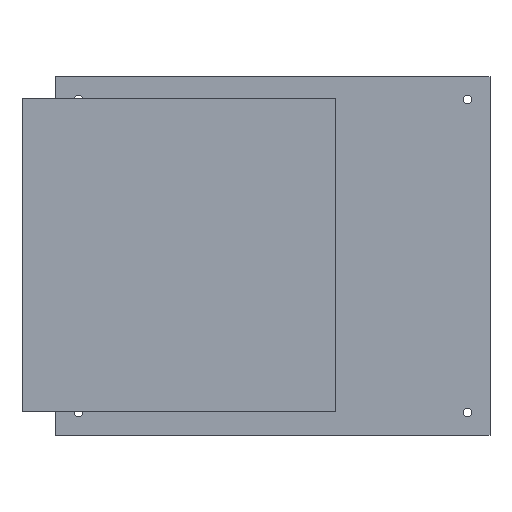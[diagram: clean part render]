
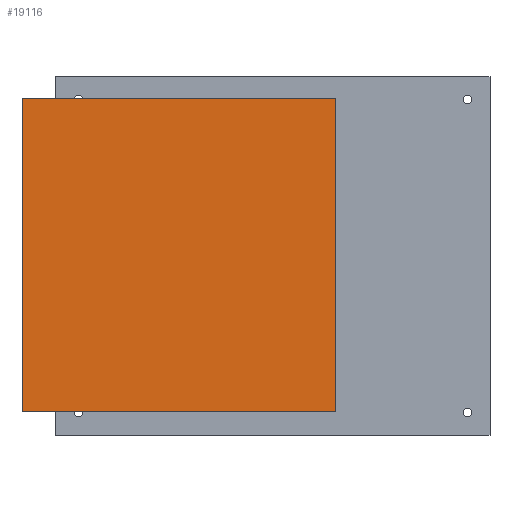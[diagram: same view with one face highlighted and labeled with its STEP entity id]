
A CAD part, top view. The second image highlights one B-rep face of the part: STEP entity #19116.
In plain terms, the highlighted planar face has unit normal (0, 0, 1).
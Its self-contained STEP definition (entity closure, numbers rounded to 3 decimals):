
#18927 = VERTEX_POINT('',#18928);
#18928 = CARTESIAN_POINT('',(-133.,-83.,402.7));
#18935 = PLANE('',#18936);
#18936 = AXIS2_PLACEMENT_3D('',#18937,#18938,#18939);
#18937 = CARTESIAN_POINT('',(-133.,-83.,397.7));
#18938 = DIRECTION('',(1.,0.,0.));
#18939 = DIRECTION('',(0.,0.,1.));
#18947 = PLANE('',#18948);
#18948 = AXIS2_PLACEMENT_3D('',#18949,#18950,#18951);
#18949 = CARTESIAN_POINT('',(-133.,-83.,397.7));
#18950 = DIRECTION('',(0.,1.,0.));
#18951 = DIRECTION('',(0.,-0.,1.));
#18988 = VERTEX_POINT('',#18989);
#18989 = CARTESIAN_POINT('',(-133.,83.,402.7));
#19003 = PLANE('',#19004);
#19004 = AXIS2_PLACEMENT_3D('',#19005,#19006,#19007);
#19005 = CARTESIAN_POINT('',(-133.,83.,397.7));
#19006 = DIRECTION('',(0.,1.,0.));
#19007 = DIRECTION('',(0.,-0.,1.));
#19015 = EDGE_CURVE('',#18927,#18988,#19016,.T.);
#19016 = SURFACE_CURVE('',#19017,(#19021,#19028),.PCURVE_S1.);
#19017 = LINE('',#19018,#19019);
#19018 = CARTESIAN_POINT('',(-133.,-83.,402.7));
#19019 = VECTOR('',#19020,1.);
#19020 = DIRECTION('',(0.,1.,0.));
#19021 = PCURVE('',#18935,#19022);
#19022 = DEFINITIONAL_REPRESENTATION('',(#19023),#19027);
#19023 = LINE('',#19024,#19025);
#19024 = CARTESIAN_POINT('',(5.,0.));
#19025 = VECTOR('',#19026,1.);
#19026 = DIRECTION('',(0.,-1.));
#19027 = ( GEOMETRIC_REPRESENTATION_CONTEXT(2) 
PARAMETRIC_REPRESENTATION_CONTEXT() REPRESENTATION_CONTEXT('2D SPACE',''
  ) );
#19028 = PCURVE('',#19029,#19034);
#19029 = PLANE('',#19030);
#19030 = AXIS2_PLACEMENT_3D('',#19031,#19032,#19033);
#19031 = CARTESIAN_POINT('',(-133.,-83.,402.7));
#19032 = DIRECTION('',(0.,0.,1.));
#19033 = DIRECTION('',(1.,0.,-0.));
#19034 = DEFINITIONAL_REPRESENTATION('',(#19035),#19039);
#19035 = LINE('',#19036,#19037);
#19036 = CARTESIAN_POINT('',(0.,0.));
#19037 = VECTOR('',#19038,1.);
#19038 = DIRECTION('',(0.,1.));
#19039 = ( GEOMETRIC_REPRESENTATION_CONTEXT(2) 
PARAMETRIC_REPRESENTATION_CONTEXT() REPRESENTATION_CONTEXT('2D SPACE',''
  ) );
#19068 = EDGE_CURVE('',#18927,#19069,#19071,.T.);
#19069 = VERTEX_POINT('',#19070);
#19070 = CARTESIAN_POINT('',(33.,-83.,402.7));
#19071 = SURFACE_CURVE('',#19072,(#19076,#19083),.PCURVE_S1.);
#19072 = LINE('',#19073,#19074);
#19073 = CARTESIAN_POINT('',(-133.,-83.,402.7));
#19074 = VECTOR('',#19075,1.);
#19075 = DIRECTION('',(1.,0.,0.));
#19076 = PCURVE('',#18947,#19077);
#19077 = DEFINITIONAL_REPRESENTATION('',(#19078),#19082);
#19078 = LINE('',#19079,#19080);
#19079 = CARTESIAN_POINT('',(5.,0.));
#19080 = VECTOR('',#19081,1.);
#19081 = DIRECTION('',(0.,1.));
#19082 = ( GEOMETRIC_REPRESENTATION_CONTEXT(2) 
PARAMETRIC_REPRESENTATION_CONTEXT() REPRESENTATION_CONTEXT('2D SPACE',''
  ) );
#19083 = PCURVE('',#19029,#19084);
#19084 = DEFINITIONAL_REPRESENTATION('',(#19085),#19089);
#19085 = LINE('',#19086,#19087);
#19086 = CARTESIAN_POINT('',(0.,0.));
#19087 = VECTOR('',#19088,1.);
#19088 = DIRECTION('',(1.,0.));
#19089 = ( GEOMETRIC_REPRESENTATION_CONTEXT(2) 
PARAMETRIC_REPRESENTATION_CONTEXT() REPRESENTATION_CONTEXT('2D SPACE',''
  ) );
#19105 = PLANE('',#19106);
#19106 = AXIS2_PLACEMENT_3D('',#19107,#19108,#19109);
#19107 = CARTESIAN_POINT('',(33.,-83.,397.7));
#19108 = DIRECTION('',(1.,0.,0.));
#19109 = DIRECTION('',(0.,0.,1.));
#19116 = ADVANCED_FACE('',(#19117),#19029,.T.);
#19117 = FACE_BOUND('',#19118,.T.);
#19118 = EDGE_LOOP('',(#19119,#19120,#19121,#19144));
#19119 = ORIENTED_EDGE('',*,*,#19015,.F.);
#19120 = ORIENTED_EDGE('',*,*,#19068,.T.);
#19121 = ORIENTED_EDGE('',*,*,#19122,.T.);
#19122 = EDGE_CURVE('',#19069,#19123,#19125,.T.);
#19123 = VERTEX_POINT('',#19124);
#19124 = CARTESIAN_POINT('',(33.,83.,402.7));
#19125 = SURFACE_CURVE('',#19126,(#19130,#19137),.PCURVE_S1.);
#19126 = LINE('',#19127,#19128);
#19127 = CARTESIAN_POINT('',(33.,-83.,402.7));
#19128 = VECTOR('',#19129,1.);
#19129 = DIRECTION('',(0.,1.,0.));
#19130 = PCURVE('',#19029,#19131);
#19131 = DEFINITIONAL_REPRESENTATION('',(#19132),#19136);
#19132 = LINE('',#19133,#19134);
#19133 = CARTESIAN_POINT('',(166.,0.));
#19134 = VECTOR('',#19135,1.);
#19135 = DIRECTION('',(0.,1.));
#19136 = ( GEOMETRIC_REPRESENTATION_CONTEXT(2) 
PARAMETRIC_REPRESENTATION_CONTEXT() REPRESENTATION_CONTEXT('2D SPACE',''
  ) );
#19137 = PCURVE('',#19105,#19138);
#19138 = DEFINITIONAL_REPRESENTATION('',(#19139),#19143);
#19139 = LINE('',#19140,#19141);
#19140 = CARTESIAN_POINT('',(5.,0.));
#19141 = VECTOR('',#19142,1.);
#19142 = DIRECTION('',(0.,-1.));
#19143 = ( GEOMETRIC_REPRESENTATION_CONTEXT(2) 
PARAMETRIC_REPRESENTATION_CONTEXT() REPRESENTATION_CONTEXT('2D SPACE',''
  ) );
#19144 = ORIENTED_EDGE('',*,*,#19145,.F.);
#19145 = EDGE_CURVE('',#18988,#19123,#19146,.T.);
#19146 = SURFACE_CURVE('',#19147,(#19151,#19158),.PCURVE_S1.);
#19147 = LINE('',#19148,#19149);
#19148 = CARTESIAN_POINT('',(-133.,83.,402.7));
#19149 = VECTOR('',#19150,1.);
#19150 = DIRECTION('',(1.,0.,0.));
#19151 = PCURVE('',#19029,#19152);
#19152 = DEFINITIONAL_REPRESENTATION('',(#19153),#19157);
#19153 = LINE('',#19154,#19155);
#19154 = CARTESIAN_POINT('',(0.,166.));
#19155 = VECTOR('',#19156,1.);
#19156 = DIRECTION('',(1.,0.));
#19157 = ( GEOMETRIC_REPRESENTATION_CONTEXT(2) 
PARAMETRIC_REPRESENTATION_CONTEXT() REPRESENTATION_CONTEXT('2D SPACE',''
  ) );
#19158 = PCURVE('',#19003,#19159);
#19159 = DEFINITIONAL_REPRESENTATION('',(#19160),#19164);
#19160 = LINE('',#19161,#19162);
#19161 = CARTESIAN_POINT('',(5.,0.));
#19162 = VECTOR('',#19163,1.);
#19163 = DIRECTION('',(0.,1.));
#19164 = ( GEOMETRIC_REPRESENTATION_CONTEXT(2) 
PARAMETRIC_REPRESENTATION_CONTEXT() REPRESENTATION_CONTEXT('2D SPACE',''
  ) );
